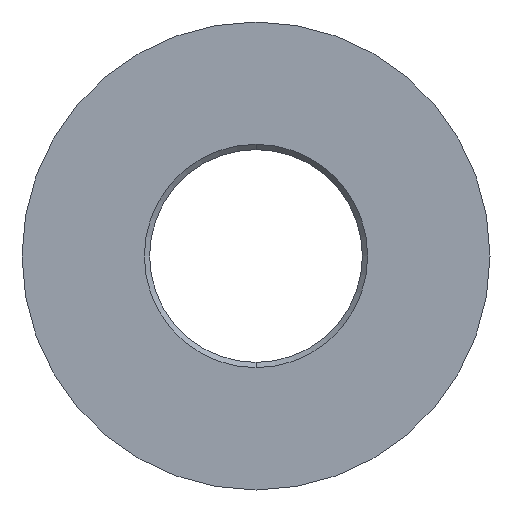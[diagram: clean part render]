
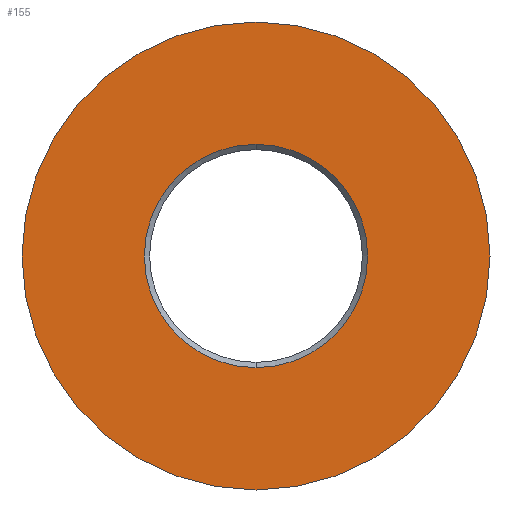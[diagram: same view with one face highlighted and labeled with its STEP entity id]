
A CAD part, front view. The second image highlights one B-rep face of the part: STEP entity #155.
In plain terms, the highlighted planar face has unit normal (0, -1, 0).
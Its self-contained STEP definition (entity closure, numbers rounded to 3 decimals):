
#27 = CARTESIAN_POINT ( 'NONE',  ( 0., -7., 0. ) ) ;
#35 = DIRECTION ( 'NONE',  ( 0., -1., 0. ) ) ;
#38 = VERTEX_POINT ( 'NONE', #359 ) ;
#39 = CIRCLE ( 'NONE', #44, 11. ) ;
#44 = AXIS2_PLACEMENT_3D ( 'NONE', #310, #270, #325 ) ;
#57 = EDGE_CURVE ( 'NONE', #38, #351, #298, .T. ) ;
#59 = DIRECTION ( 'NONE',  ( 0., 0., -1. ) ) ;
#78 = EDGE_CURVE ( 'NONE', #170, #79, #176, .T. ) ;
#79 = VERTEX_POINT ( 'NONE', #384 ) ;
#85 = FACE_OUTER_BOUND ( 'NONE', #139, .T. ) ;
#96 = DIRECTION ( 'NONE',  ( 0., 0., 1. ) ) ;
#98 = CARTESIAN_POINT ( 'NONE',  ( 0., -7., 5.25 ) ) ;
#119 = CARTESIAN_POINT ( 'NONE',  ( 0., -7., -11. ) ) ;
#139 = EDGE_LOOP ( 'NONE', ( #340, #265 ) ) ;
#142 = DIRECTION ( 'NONE',  ( 0., 1., 0. ) ) ;
#144 = CIRCLE ( 'NONE', #199, 5.25 ) ;
#155 = ADVANCED_FACE ( 'NONE', ( #244, #85 ), #274, .F. ) ;
#164 = AXIS2_PLACEMENT_3D ( 'NONE', #363, #385, #368 ) ;
#170 = VERTEX_POINT ( 'NONE', #119 ) ;
#176 = CIRCLE ( 'NONE', #185, 11. ) ;
#185 = AXIS2_PLACEMENT_3D ( 'NONE', #27, #35, #59 ) ;
#199 = AXIS2_PLACEMENT_3D ( 'NONE', #375, #205, #307 ) ;
#205 = DIRECTION ( 'NONE',  ( 0., -1., 0. ) ) ;
#244 = FACE_BOUND ( 'NONE', #335, .T. ) ;
#261 = AXIS2_PLACEMENT_3D ( 'NONE', #302, #142, #96 ) ;
#262 = ORIENTED_EDGE ( 'NONE', *, *, #332, .F. ) ;
#265 = ORIENTED_EDGE ( 'NONE', *, *, #360, .T. ) ;
#270 = DIRECTION ( 'NONE',  ( 0., -1., 0. ) ) ;
#274 = PLANE ( 'NONE',  #261 ) ;
#298 = CIRCLE ( 'NONE', #164, 5.25 ) ;
#302 = CARTESIAN_POINT ( 'NONE',  ( -5.25, -7., 0. ) ) ;
#307 = DIRECTION ( 'NONE',  ( 0., 0., -1. ) ) ;
#310 = CARTESIAN_POINT ( 'NONE',  ( 0., -7., 0. ) ) ;
#325 = DIRECTION ( 'NONE',  ( 0., 0., -1. ) ) ;
#332 = EDGE_CURVE ( 'NONE', #351, #38, #144, .T. ) ;
#335 = EDGE_LOOP ( 'NONE', ( #337, #262 ) ) ;
#337 = ORIENTED_EDGE ( 'NONE', *, *, #57, .F. ) ;
#340 = ORIENTED_EDGE ( 'NONE', *, *, #78, .T. ) ;
#351 = VERTEX_POINT ( 'NONE', #98 ) ;
#359 = CARTESIAN_POINT ( 'NONE',  ( 0., -7., -5.25 ) ) ;
#360 = EDGE_CURVE ( 'NONE', #79, #170, #39, .T. ) ;
#363 = CARTESIAN_POINT ( 'NONE',  ( 0., -7., 0. ) ) ;
#368 = DIRECTION ( 'NONE',  ( 0., 0., -1. ) ) ;
#375 = CARTESIAN_POINT ( 'NONE',  ( 0., -7., 0. ) ) ;
#384 = CARTESIAN_POINT ( 'NONE',  ( 0., -7., 11. ) ) ;
#385 = DIRECTION ( 'NONE',  ( 0., -1., 0. ) ) ;
